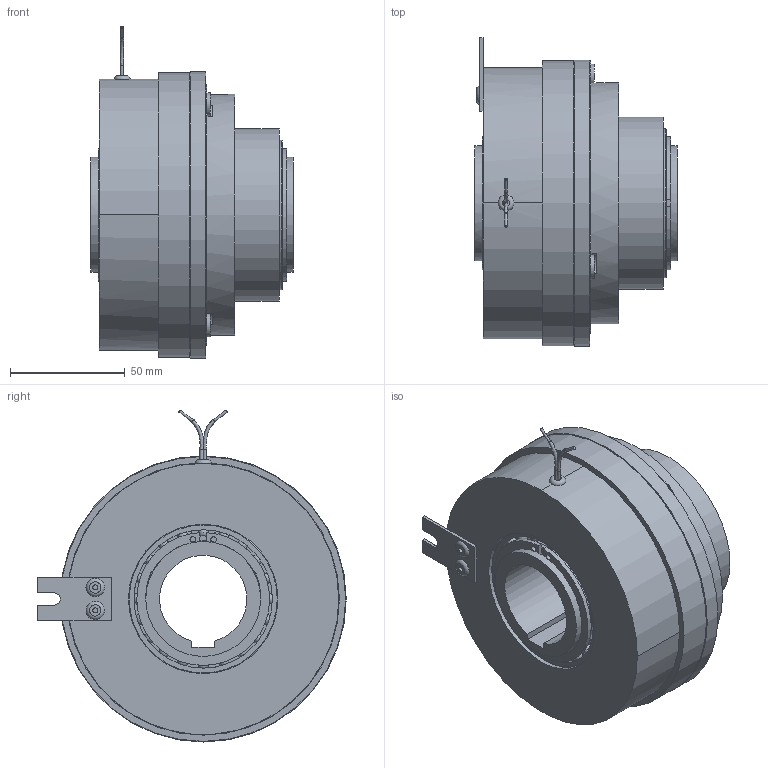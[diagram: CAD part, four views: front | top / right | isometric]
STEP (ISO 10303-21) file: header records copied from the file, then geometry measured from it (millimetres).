
FILE_DESCRIPTION(/* description */ (''),/* implementation_level */ '2;1');
FILE_NAME(/* name */ 'X:\INVENTOR\DISEGNI\08_Freni_Friz_Elettmag_Monodisco\08_26 EMSL_DF\EMSL_DF STEP\08_26_120_41 EMSL120_DF-R@STEP.stp',/* time_stamp */ '2018-04-24T09:47:24+02:00',/* author */ ('stefano'),/* organization */ (''),/* preprocessor_version */ 'ST-DEVELOPER v17',/* originating_system */ 'Autodesk Inventor 2018',/* authorisation */ '');
FILE_SCHEMA (('AUTOMOTIVE_DESIGN { 1 0 10303 214 3 1 1 }'));
Length unit declared in the file: millimetre
Products named in the file (1): 08_26_120_41 EMSL120_DF-R_Substitute_1
Bounding box: 88 x 134.25 x 144.47 mm (x, y, z)
Volume: 560244.8 mm3; surface area: 157082.6 mm2
Topology: 2 solids, 2 shells, 623 faces, 2228 edges, 1477 vertices
Faces by surface type: cylinder 231, plane 178, torus 136, sphere 60, cone 16, bspline 2
Full cylindrical faces by diameter (mm): 1.154 x2, 1.5 x1, 2.2 x5, 2.5 x4, 3 x4, 4.917 x6, 6 x3, 6.1 x6, 7.5 x3, 10 x3, 10.5 x3, 47 x1, 50 x6, 54.8 x6, 56 x2, 59 x1, 60.2 x6, 64.5 x1, 65 x6, 75 x1, 77 x1, 81 x1, 105 x1, 110.5 x1, 118.5 x1, 124 x1, 124.5 x1
Entity records: 30361 total; most frequent: CARTESIAN_POINT 10840, ORIENTED_EDGE 4214, DIRECTION 4035, EDGE_CURVE 2107, AXIS2_PLACEMENT_3D 1827, VERTEX_POINT 1478, CIRCLE 1205, EDGE_LOOP 848
